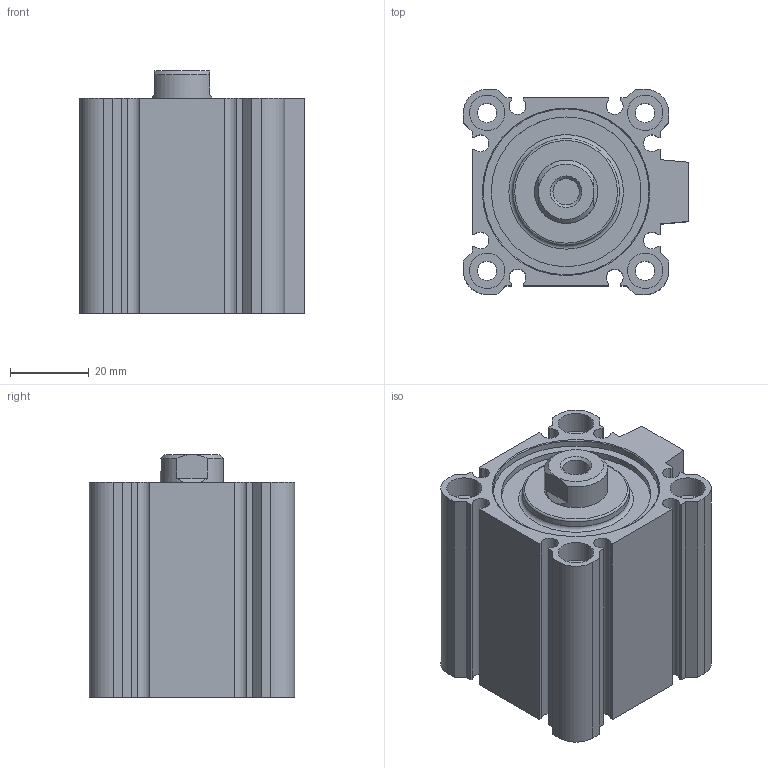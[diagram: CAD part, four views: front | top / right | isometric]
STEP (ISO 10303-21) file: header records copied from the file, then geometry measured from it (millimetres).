
FILE_DESCRIPTION( ( 'STEP AP214' ), '1' );
FILE_NAME( 'C:/Users/emc02044/Desktop/SQN SQN big size/SQN40X15-S.stp', '2026-07-29T01:58:16', ( 'License CC BY-ND 4.0' ), ( 'CADENAS' ), ' ', 'PARTsolutions', ' ' );
FILE_SCHEMA( ( 'AUTOMOTIVE_DESIGN { 1 0 10303 214 1 1 1 1 }' ) );
Length unit declared in the file: millimetre
Products named in the file (3): SQN40X15-S; _SQ40X15-S(0) ()_body; _SQ40X15-S(rod-0)
Assembly tree (2 placements, depth 2):
  SQN40X15-S
    _SQ40X15-S(0) ()_body
    _SQ40X15-S(rod-0)
Bounding box: 57 x 52 x 61.5 mm (x, y, z)
Volume: 102445.2 mm3; surface area: 40071.5 mm2
Topology: 2 solids, 2 shells, 137 faces, 310 edges, 203 vertices
Faces by surface type: plane 82, cylinder 43, cone 10, torus 2
Full cylindrical faces by diameter (mm): 4.917 x8, 5.5 x4, 6.647 x1, 8.566 x2, 9 x8, 16 x2, 27 x1, 37.9 x1, 40 x3, 42 x1
Entity records: 4800 total; most frequent: DIRECTION 644, CARTESIAN_POINT 636, ORIENTED_EDGE 534, EDGE_CURVE 267, AXIS2_PLACEMENT_3D 241, EDGE_LOOP 212, VERTEX_POINT 201, FACE_OUTER_BOUND 170
